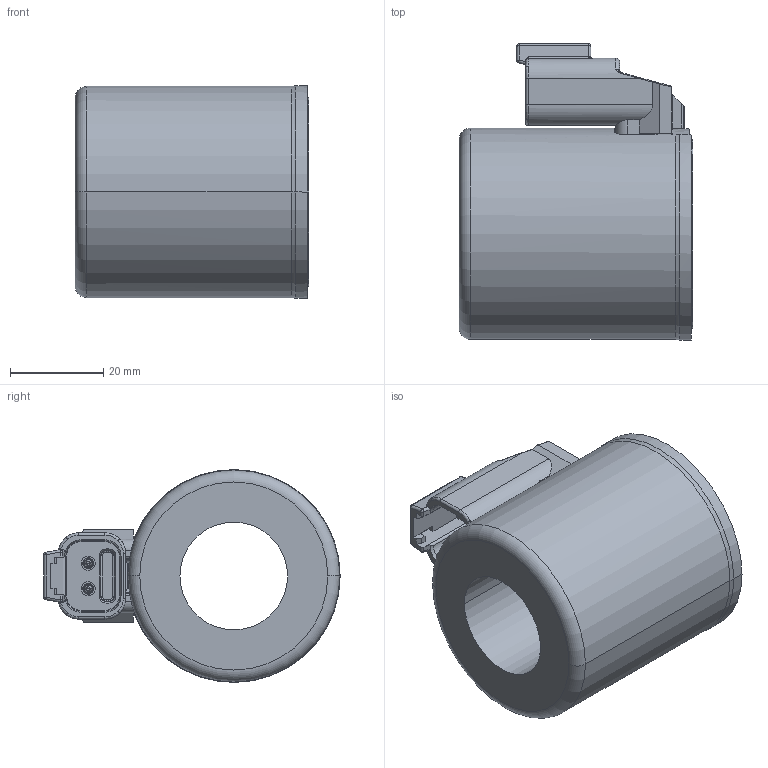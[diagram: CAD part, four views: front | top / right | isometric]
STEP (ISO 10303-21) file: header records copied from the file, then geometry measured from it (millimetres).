
FILE_DESCRIPTION (( 'STEP AP214' ), '1' );
FILE_NAME ('WGS45_23x50.STEP', '2017-03-24T12:58:42', ( '' ), ( '' ), 'SwSTEP 2.0', 'SolidWorks 2016', '' );
FILE_SCHEMA (( 'AUTOMOTIVE_DESIGN' ));
Length unit declared in the file: millimetre
Products named in the file (1): WGS45_23x50
Bounding box: 50.1 x 63.5 x 45.6 mm (x, y, z)
Volume: 63776.4 mm3; surface area: 19388.5 mm2
Topology: 1 solids, 1 shells, 319 faces, 827 edges, 506 vertices
Faces by surface type: plane 116, cylinder 94, bspline 50, torus 23, cone 19, sphere 17
Entity records: 15927 total; most frequent: CARTESIAN_POINT 8195, ORIENTED_EDGE 1640, DIRECTION 1491, EDGE_CURVE 820, AXIS2_PLACEMENT_3D 553, VERTEX_POINT 506, VECTOR 385, LINE 385
